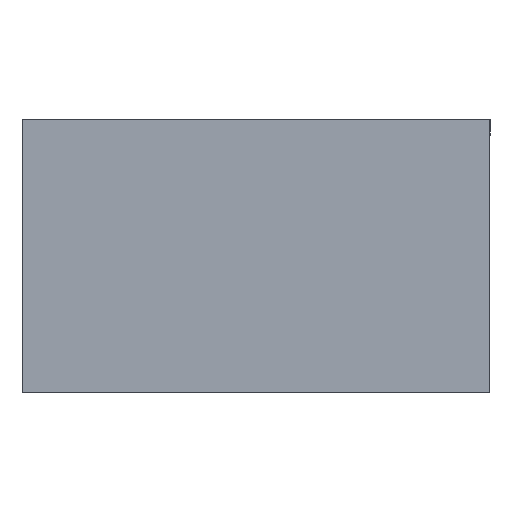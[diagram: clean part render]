
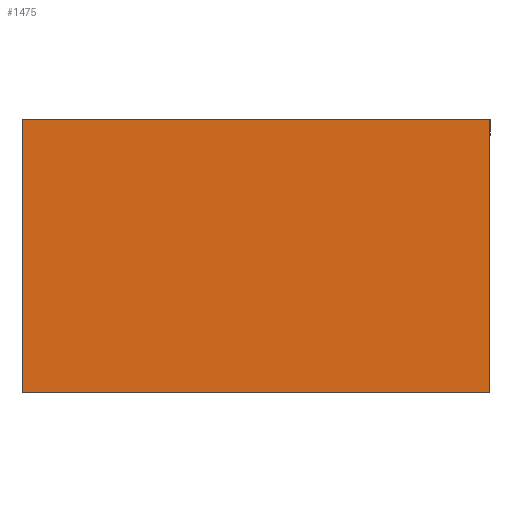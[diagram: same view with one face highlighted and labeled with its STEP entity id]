
A CAD part, front view. The second image highlights one B-rep face of the part: STEP entity #1475.
In plain terms, the highlighted planar face has unit normal (0, -1, 0).
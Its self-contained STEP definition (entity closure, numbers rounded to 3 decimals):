
#146 = ORIENTED_EDGE ( 'NONE', *, *, #569, .F. ) ;
#158 = VECTOR ( 'NONE', #256, 1000. ) ;
#186 = VECTOR ( 'NONE', #1002, 1000. ) ;
#236 = CARTESIAN_POINT ( 'NONE',  ( -30., 0., 17.5 ) ) ;
#256 = DIRECTION ( 'NONE',  ( 1., 0., 0. ) ) ;
#279 = EDGE_CURVE ( 'NONE', #489, #1496, #1913, .T. ) ;
#360 = LINE ( 'NONE', #1605, #1634 ) ;
#373 = LINE ( 'NONE', #1829, #1154 ) ;
#453 = CARTESIAN_POINT ( 'NONE',  ( 30., 0., -17.5 ) ) ;
#489 = VERTEX_POINT ( 'NONE', #453 ) ;
#495 = CARTESIAN_POINT ( 'NONE',  ( -30., 0., 17.5 ) ) ;
#569 = EDGE_CURVE ( 'NONE', #953, #1963, #1535, .T. ) ;
#596 = CARTESIAN_POINT ( 'NONE',  ( 30., 0., 17.5 ) ) ;
#598 = ORIENTED_EDGE ( 'NONE', *, *, #1118, .F. ) ;
#905 = CARTESIAN_POINT ( 'NONE',  ( 0., 0., 0. ) ) ;
#953 = VERTEX_POINT ( 'NONE', #495 ) ;
#1002 = DIRECTION ( 'NONE',  ( -1., 0., 0. ) ) ;
#1008 = DIRECTION ( 'NONE',  ( 0., 0., 1. ) ) ;
#1032 = CARTESIAN_POINT ( 'NONE',  ( -30., 0., -17.5 ) ) ;
#1033 = ORIENTED_EDGE ( 'NONE', *, *, #279, .F. ) ;
#1040 = FACE_OUTER_BOUND ( 'NONE', #1759, .T. ) ;
#1076 = AXIS2_PLACEMENT_3D ( 'NONE', #905, #1733, #1008 ) ;
#1118 = EDGE_CURVE ( 'NONE', #1496, #953, #373, .T. ) ;
#1154 = VECTOR ( 'NONE', #1993, 1000. ) ;
#1372 = CARTESIAN_POINT ( 'NONE',  ( -30., 0., -17.5 ) ) ;
#1416 = DIRECTION ( 'NONE',  ( 0., 0., -1. ) ) ;
#1458 = ORIENTED_EDGE ( 'NONE', *, *, #1766, .F. ) ;
#1475 = ADVANCED_FACE ( 'NONE', ( #1040 ), #1899, .F. ) ;
#1496 = VERTEX_POINT ( 'NONE', #1372 ) ;
#1535 = LINE ( 'NONE', #236, #158 ) ;
#1605 = CARTESIAN_POINT ( 'NONE',  ( 30., 0., -17.5 ) ) ;
#1634 = VECTOR ( 'NONE', #1416, 1000. ) ;
#1733 = DIRECTION ( 'NONE',  ( 0., 1., 0. ) ) ;
#1759 = EDGE_LOOP ( 'NONE', ( #1458, #146, #598, #1033 ) ) ;
#1766 = EDGE_CURVE ( 'NONE', #1963, #489, #360, .T. ) ;
#1829 = CARTESIAN_POINT ( 'NONE',  ( -30., 0., -17.5 ) ) ;
#1899 = PLANE ( 'NONE',  #1076 ) ;
#1913 = LINE ( 'NONE', #1032, #186 ) ;
#1963 = VERTEX_POINT ( 'NONE', #596 ) ;
#1993 = DIRECTION ( 'NONE',  ( 0., 0., 1. ) ) ;
